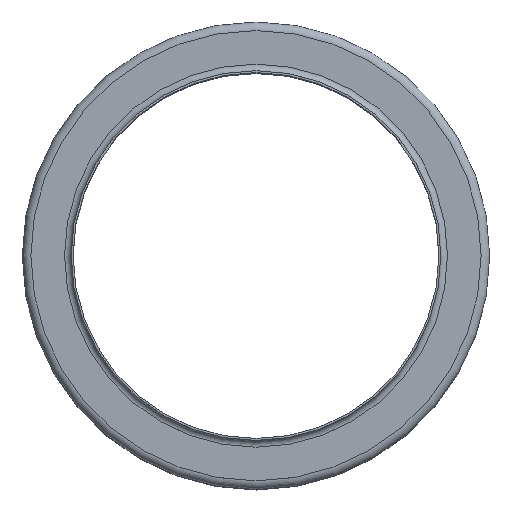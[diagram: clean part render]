
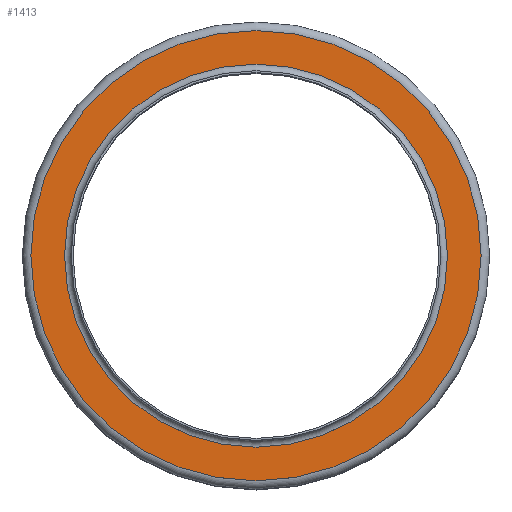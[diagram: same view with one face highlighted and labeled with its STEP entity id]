
A CAD part, top view. The second image highlights one B-rep face of the part: STEP entity #1413.
In plain terms, the highlighted planar face has unit normal (0, 0, 1).
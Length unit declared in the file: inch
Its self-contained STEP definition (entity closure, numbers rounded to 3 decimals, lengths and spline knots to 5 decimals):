
#127=FACE_BOUND('',#381,.T.);
#226=FACE_OUTER_BOUND('',#380,.T.);
#380=EDGE_LOOP('',(#1105));
#381=EDGE_LOOP('',(#1106));
#542=CIRCLE('',#1682,2.35575);
#543=CIRCLE('',#1684,2.76925);
#655=VERTEX_POINT('',#2578);
#656=VERTEX_POINT('',#2582);
#808=EDGE_CURVE('',#655,#655,#542,.T.);
#809=EDGE_CURVE('',#656,#656,#543,.T.);
#1105=ORIENTED_EDGE('',*,*,#809,.F.);
#1106=ORIENTED_EDGE('',*,*,#808,.T.);
#1203=PLANE('',#1683);
#1413=ADVANCED_FACE('',(#226,#127),#1203,.T.);
#1682=AXIS2_PLACEMENT_3D('',#2580,#2178,#2179);
#1683=AXIS2_PLACEMENT_3D('',#2581,#2180,#2181);
#1684=AXIS2_PLACEMENT_3D('',#2583,#2182,#2183);
#2178=DIRECTION('center_axis',(0.,0.,-1.));
#2179=DIRECTION('ref_axis',(1.,0.,0.));
#2180=DIRECTION('center_axis',(0.,0.,1.));
#2181=DIRECTION('ref_axis',(1.,0.,0.));
#2182=DIRECTION('center_axis',(0.,0.,-1.));
#2183=DIRECTION('ref_axis',(1.,0.,0.));
#2578=CARTESIAN_POINT('',(2.35575,0.,-0.08175));
#2580=CARTESIAN_POINT('Origin',(0.,0.,-0.08175));
#2581=CARTESIAN_POINT('Origin',(0.,2.76925,-0.08175));
#2582=CARTESIAN_POINT('',(2.76925,0.,-0.08175));
#2583=CARTESIAN_POINT('Origin',(0.,0.,-0.08175));
